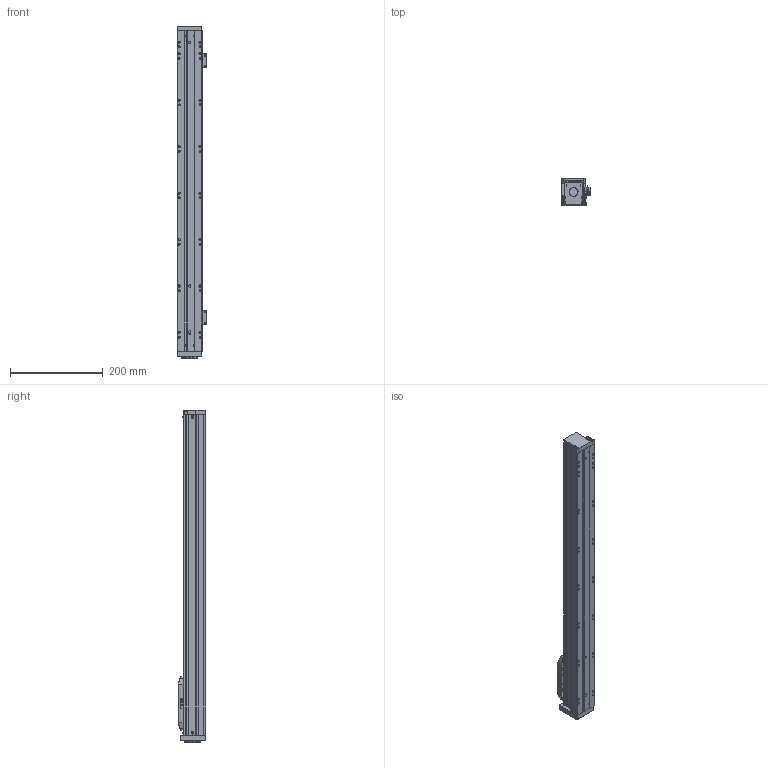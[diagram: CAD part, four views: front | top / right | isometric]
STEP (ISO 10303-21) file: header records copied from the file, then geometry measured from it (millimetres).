
FILE_DESCRIPTION (( 'STEP AP203' ), '1' );
FILE_NAME ('KTH5-L10-S550.STEP', '2019-12-19T08:25:20', ( '微软用户' ), ( '微软中国' ), 'SwSTEP 2.0', 'SolidWorks 2017', '' );
FILE_SCHEMA (( 'CONFIG_CONTROL_DESIGN' ));
Length unit declared in the file: millimetre
Products named in the file (16): 耜啣; 粣創釱-郔笝唳20190813; 階裔; 嫖萇羲壽諉揖え; 棠沭; EE-SX674; LES50-013癹弇菜; EE-SX674WR嫖萇羲壽假蚾啣; 詩湍; KTH5-L10-S550; 詩湍揤啣; GB╱T 70.1-2008[内六角圆柱头螺钉M4×16]_M4×16; LES50-001菁釱; GB╱T 70.2-2008[内六角平圆头螺钉M3×10]_M3×10; LES50-004賑釱; ヶ裔-党蜊唳
Assembly tree (31 placements, depth 2):
  KTH5-L10-S550
    LES50-001菁釱
    LES50-004賑釱
    耜啣  x2
    階裔
    棠沭  x2
    LES50-013癹弇菜  x2
    詩湍
    詩湍揤啣  x2
    GB╱T 70.1-2008[内六角圆柱头螺钉M4×16]_M4×16  x4
    GB╱T 70.2-2008[内六角平圆头螺钉M3×10]_M3×10  x8
    ヶ裔-党蜊唳
    粣創釱-郔笝唳20190813
    嫖萇羲壽諉揖え
    EE-SX674  x2
    EE-SX674WR嫖萇羲壽假蚾啣  x2
Bounding box: 64.25 x 60 x 715 mm (x, y, z)
Volume: 682899.6 mm3; surface area: 370330.2 mm2
Topology: 31 solids, 31 shells, 1417 faces, 3436 edges, 2102 vertices
Faces by surface type: plane 654, cylinder 463, cone 236, torus 36, sphere 16, bspline 12
Entity records: 32722 total; most frequent: CARTESIAN_POINT 5809, DIRECTION 5340, ORIENTED_EDGE 4932, EDGE_CURVE 2466, AXIS2_PLACEMENT_3D 1888, VERTEX_POINT 1567, LINE 1564, VECTOR 1564
